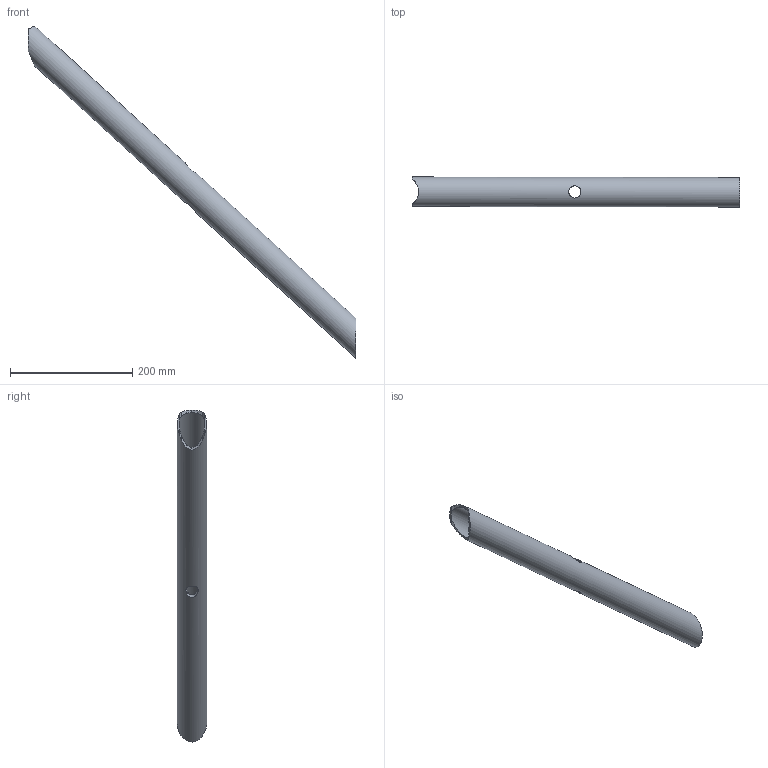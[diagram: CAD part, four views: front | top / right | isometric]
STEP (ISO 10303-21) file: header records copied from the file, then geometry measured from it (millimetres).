
FILE_DESCRIPTION(('Open CASCADE Model'),'2;1');
FILE_NAME('Open CASCADE Shape Model','2016-07-06T13:17:11',('Author'),( 'Open CASCADE'),'Open CASCADE STEP processor 6.8','Open CASCADE 6.8' ,'Unknown');
FILE_SCHEMA(('AUTOMOTIVE_DESIGN_CC2 { 1 2 10303 214 -1 1 5 4 }'));
Length unit declared in the file: millimetre
Products named in the file (1): Open CASCADE STEP translator 6.8 1
Bounding box: 536.09 x 48.3 x 542.7 mm (x, y, z)
Volume: 322586.8 mm3; surface area: 203520.7 mm2
Topology: 1 solids, 1 shells, 19 faces, 58 edges, 40 vertices
Faces by surface type: plane 15, cylinder 4
Full cylindrical faces by diameter (mm): 20 x2, 41.9 x1, 48.3 x1
Entity records: 2782 total; most frequent: CARTESIAN_POINT 1692, DIRECTION 182, ORIENTED_EDGE 116, PCURVE 116, DEFINITIONAL_REPRESENTATION 116, B_SPLINE_CURVE_WITH_KNOTS 64, ELLIPSE 64, EDGE_CURVE 58
